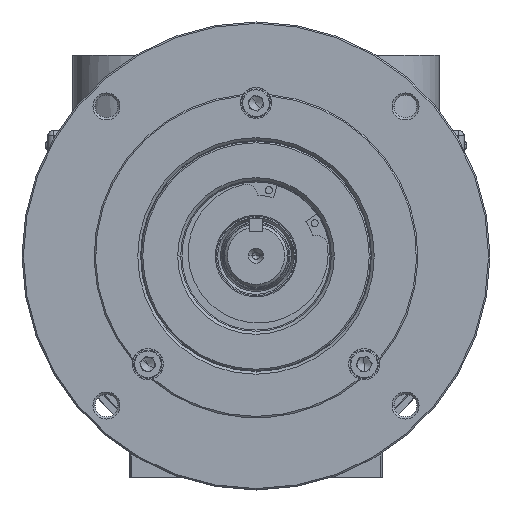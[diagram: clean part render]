
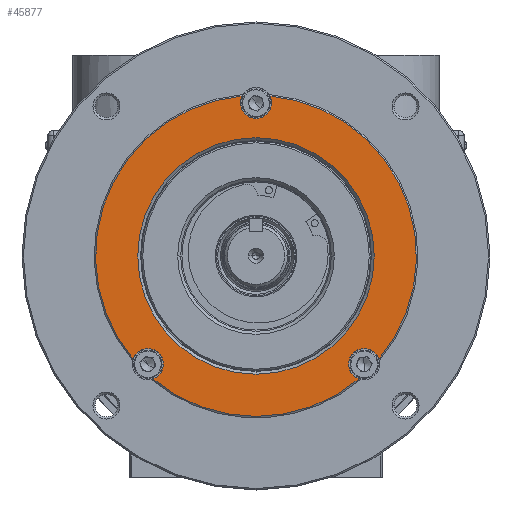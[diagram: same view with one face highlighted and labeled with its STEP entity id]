
A CAD part, top view. The second image highlights one B-rep face of the part: STEP entity #45877.
In plain terms, the highlighted planar face has unit normal (0, 0, 1).
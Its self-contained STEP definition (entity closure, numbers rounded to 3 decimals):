
#7488 = DIRECTION ( 'NONE',  ( 0., 0., -1. ) ) ;
#13038 = CARTESIAN_POINT ( 'NONE',  ( 0., -35.75, 101.85 ) ) ;
#13845 = DIRECTION ( 'NONE',  ( 0., 0., 1. ) ) ;
#16653 = ORIENTED_EDGE ( 'NONE', *, *, #36343, .F. ) ;
#18422 = EDGE_LOOP ( 'NONE', ( #64624, #129930, #147886, #35995, #16653, #269242, #383102, #139222, #395001, #147878 ) ) ;
#22626 = CARTESIAN_POINT ( 'NONE',  ( -5.5, 60., 101.85 ) ) ;
#31256 = CARTESIAN_POINT ( 'NONE',  ( 43.393, -30.418, 101.85 ) ) ;
#32716 = EDGE_CURVE ( 'NONE', #317666, #148580, #179556, .T. ) ;
#35995 = ORIENTED_EDGE ( 'NONE', *, *, #156374, .F. ) ;
#36343 = EDGE_CURVE ( 'NONE', #290605, #40137, #71797, .T. ) ;
#40137 = VERTEX_POINT ( 'NONE', #22626 ) ;
#45877 = ADVANCED_FACE ( 'NONE', ( #420085, #119523 ), #156822, .T. ) ;
#47210 = VERTEX_POINT ( 'NONE', #238716 ) ;
#48820 = AXIS2_PLACEMENT_3D ( 'NONE', #122065, #413789, #153416 ) ;
#52312 = DIRECTION ( 'NONE',  ( 1., 0., 0. ) ) ;
#53459 = DIRECTION ( 'NONE',  ( 1., 0., 0. ) ) ;
#55957 = VERTEX_POINT ( 'NONE', #112857 ) ;
#59783 = DIRECTION ( 'NONE',  ( 0., 0., 1. ) ) ;
#64624 = ORIENTED_EDGE ( 'NONE', *, *, #128444, .F. ) ;
#65049 = VERTEX_POINT ( 'NONE', #308974 ) ;
#70080 = CIRCLE ( 'NONE', #372736, 5.5 ) ;
#70533 = EDGE_CURVE ( 'NONE', #148580, #317666, #205322, .T. ) ;
#71797 = CIRCLE ( 'NONE', #377162, 5.5 ) ;
#76932 = AXIS2_PLACEMENT_3D ( 'NONE', #416410, #257135, #289825 ) ;
#80971 = EDGE_CURVE ( 'NONE', #55957, #290605, #178832, .T. ) ;
#84132 = AXIS2_PLACEMENT_3D ( 'NONE', #117867, #112279, #406830 ) ;
#94109 = DIRECTION ( 'NONE',  ( 0., -1., 0. ) ) ;
#102034 = CIRCLE ( 'NONE', #133809, 5.5 ) ;
#103524 = DIRECTION ( 'NONE',  ( 0., 0., 1. ) ) ;
#112279 = DIRECTION ( 'NONE',  ( 0., 0., -1. ) ) ;
#112857 = CARTESIAN_POINT ( 'NONE',  ( -43.393, -30.418, 101.85 ) ) ;
#114172 = AXIS2_PLACEMENT_3D ( 'NONE', #208929, #13845, #241645 ) ;
#117867 = CARTESIAN_POINT ( 'NONE',  ( 0., 6., 101.85 ) ) ;
#119523 = FACE_BOUND ( 'NONE', #196973, .T. ) ;
#122065 = CARTESIAN_POINT ( 'NONE',  ( 38.184, -32.184, 101.85 ) ) ;
#125453 = CARTESIAN_POINT ( 'NONE',  ( 0., 47.75, 101.85 ) ) ;
#128444 = EDGE_CURVE ( 'NONE', #280765, #277372, #174092, .T. ) ;
#129930 = ORIENTED_EDGE ( 'NONE', *, *, #309003, .F. ) ;
#133809 = AXIS2_PLACEMENT_3D ( 'NONE', #277368, #246097, #52312 ) ;
#139222 = ORIENTED_EDGE ( 'NONE', *, *, #157712, .F. ) ;
#147878 = ORIENTED_EDGE ( 'NONE', *, *, #266226, .F. ) ;
#147886 = ORIENTED_EDGE ( 'NONE', *, *, #340388, .F. ) ;
#148580 = VERTEX_POINT ( 'NONE', #13038 ) ;
#149135 = DIRECTION ( 'NONE',  ( 0., 0., 1. ) ) ;
#153416 = DIRECTION ( 'NONE',  ( 1., 0., 0. ) ) ;
#156374 = EDGE_CURVE ( 'NONE', #40137, #264982, #70080, .T. ) ;
#156822 = PLANE ( 'NONE',  #272712 ) ;
#157712 = EDGE_CURVE ( 'NONE', #65049, #251259, #345868, .T. ) ;
#158633 = CIRCLE ( 'NONE', #340782, 56.65 ) ;
#163416 = DIRECTION ( 'NONE',  ( 1., 0., 0. ) ) ;
#173901 = DIRECTION ( 'NONE',  ( 0., 1., 0. ) ) ;
#174092 = CIRCLE ( 'NONE', #383810, 5.5 ) ;
#178832 = CIRCLE ( 'NONE', #76932, 56.65 ) ;
#179556 = CIRCLE ( 'NONE', #84132, 41.75 ) ;
#180558 = DIRECTION ( 'NONE',  ( 1., 0., 0. ) ) ;
#185201 = AXIS2_PLACEMENT_3D ( 'NONE', #278729, #149135, #180558 ) ;
#185930 = DIRECTION ( 'NONE',  ( 0., 1., 0. ) ) ;
#189391 = CIRCLE ( 'NONE', #185201, 5.5 ) ;
#190906 = DIRECTION ( 'NONE',  ( 1., 0., 0. ) ) ;
#193687 = CARTESIAN_POINT ( 'NONE',  ( 0., 60., 101.85 ) ) ;
#196973 = EDGE_LOOP ( 'NONE', ( #409821, #376643 ) ) ;
#199757 = CARTESIAN_POINT ( 'NONE',  ( 0., 6., 101.85 ) ) ;
#205322 = CIRCLE ( 'NONE', #390390, 41.75 ) ;
#208929 = CARTESIAN_POINT ( 'NONE',  ( -38.184, -32.184, 101.85 ) ) ;
#209995 = EDGE_CURVE ( 'NONE', #358704, #65049, #253325, .T. ) ;
#212113 = CARTESIAN_POINT ( 'NONE',  ( 0., 47.75, 101.85 ) ) ;
#217220 = CARTESIAN_POINT ( 'NONE',  ( 0., 6., 101.85 ) ) ;
#236559 = CARTESIAN_POINT ( 'NONE',  ( 0., 6., 101.85 ) ) ;
#238716 = CARTESIAN_POINT ( 'NONE',  ( 4.932, 62.435, 101.85 ) ) ;
#241645 = DIRECTION ( 'NONE',  ( 1., 0., 0. ) ) ;
#246097 = DIRECTION ( 'NONE',  ( 0., 0., 1. ) ) ;
#248654 = DIRECTION ( 'NONE',  ( 0., 0., 1. ) ) ;
#251259 = VERTEX_POINT ( 'NONE', #362923 ) ;
#253325 = CIRCLE ( 'NONE', #381149, 56.65 ) ;
#257135 = DIRECTION ( 'NONE',  ( 0., 0., -1. ) ) ;
#264982 = VERTEX_POINT ( 'NONE', #306504 ) ;
#266226 = EDGE_CURVE ( 'NONE', #277372, #358704, #332981, .T. ) ;
#269242 = ORIENTED_EDGE ( 'NONE', *, *, #80971, .F. ) ;
#272712 = AXIS2_PLACEMENT_3D ( 'NONE', #125453, #390065, #94109 ) ;
#277368 = CARTESIAN_POINT ( 'NONE',  ( -38.184, -32.184, 101.85 ) ) ;
#277372 = VERTEX_POINT ( 'NONE', #375405 ) ;
#278729 = CARTESIAN_POINT ( 'NONE',  ( 0., 60., 101.85 ) ) ;
#280765 = VERTEX_POINT ( 'NONE', #31256 ) ;
#289825 = DIRECTION ( 'NONE',  ( 0., 1., 0. ) ) ;
#290605 = VERTEX_POINT ( 'NONE', #367241 ) ;
#300417 = EDGE_CURVE ( 'NONE', #251259, #55957, #102034, .T. ) ;
#306504 = CARTESIAN_POINT ( 'NONE',  ( 5.5, 60., 101.85 ) ) ;
#308974 = CARTESIAN_POINT ( 'NONE',  ( -36.418, -37.393, 101.85 ) ) ;
#309003 = EDGE_CURVE ( 'NONE', #47210, #280765, #158633, .T. ) ;
#317666 = VERTEX_POINT ( 'NONE', #212113 ) ;
#332981 = CIRCLE ( 'NONE', #48820, 5.5 ) ;
#336944 = CARTESIAN_POINT ( 'NONE',  ( 36.418, -37.393, 101.85 ) ) ;
#340388 = EDGE_CURVE ( 'NONE', #264982, #47210, #189391, .T. ) ;
#340782 = AXIS2_PLACEMENT_3D ( 'NONE', #236559, #368802, #173901 ) ;
#345868 = CIRCLE ( 'NONE', #114172, 5.5 ) ;
#358704 = VERTEX_POINT ( 'NONE', #336944 ) ;
#361180 = CARTESIAN_POINT ( 'NONE',  ( 38.184, -32.184, 101.85 ) ) ;
#362923 = CARTESIAN_POINT ( 'NONE',  ( -32.684, -32.184, 101.85 ) ) ;
#367241 = CARTESIAN_POINT ( 'NONE',  ( -4.932, 62.435, 101.85 ) ) ;
#368802 = DIRECTION ( 'NONE',  ( 0., 0., -1. ) ) ;
#372736 = AXIS2_PLACEMENT_3D ( 'NONE', #193687, #59783, #190906 ) ;
#375405 = CARTESIAN_POINT ( 'NONE',  ( 32.684, -32.184, 101.85 ) ) ;
#376643 = ORIENTED_EDGE ( 'NONE', *, *, #32716, .T. ) ;
#377162 = AXIS2_PLACEMENT_3D ( 'NONE', #383643, #248654, #53459 ) ;
#380824 = DIRECTION ( 'NONE',  ( 0., 0., -1. ) ) ;
#381149 = AXIS2_PLACEMENT_3D ( 'NONE', #217220, #380824, #185930 ) ;
#383102 = ORIENTED_EDGE ( 'NONE', *, *, #300417, .F. ) ;
#383643 = CARTESIAN_POINT ( 'NONE',  ( 0., 60., 101.85 ) ) ;
#383810 = AXIS2_PLACEMENT_3D ( 'NONE', #361180, #103524, #163416 ) ;
#390065 = DIRECTION ( 'NONE',  ( 0., 0., 1. ) ) ;
#390390 = AXIS2_PLACEMENT_3D ( 'NONE', #199757, #7488, #397437 ) ;
#395001 = ORIENTED_EDGE ( 'NONE', *, *, #209995, .F. ) ;
#397437 = DIRECTION ( 'NONE',  ( 0., 1., 0. ) ) ;
#406830 = DIRECTION ( 'NONE',  ( 0., 1., 0. ) ) ;
#409821 = ORIENTED_EDGE ( 'NONE', *, *, #70533, .T. ) ;
#413789 = DIRECTION ( 'NONE',  ( 0., 0., 1. ) ) ;
#416410 = CARTESIAN_POINT ( 'NONE',  ( 0., 6., 101.85 ) ) ;
#420085 = FACE_OUTER_BOUND ( 'NONE', #18422, .T. ) ;
